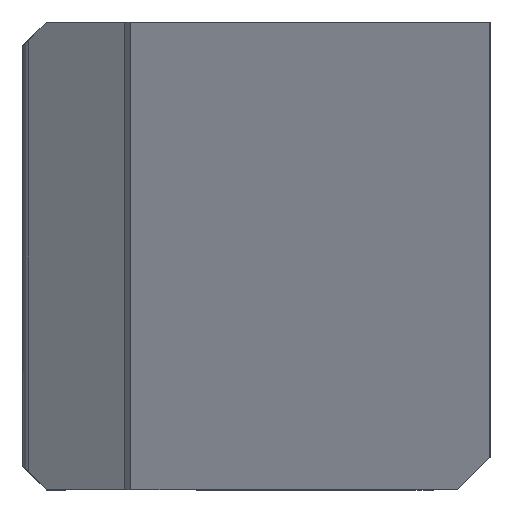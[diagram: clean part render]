
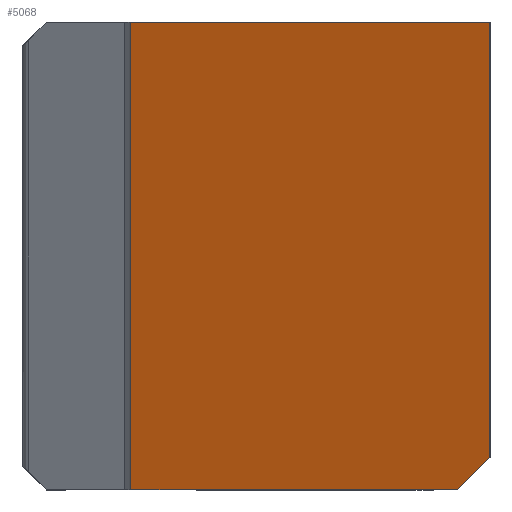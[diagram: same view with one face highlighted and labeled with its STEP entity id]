
A CAD part, left-side view. The second image highlights one B-rep face of the part: STEP entity #5068.
In plain terms, the highlighted planar face has unit normal (-0.943, 0, -0.334).
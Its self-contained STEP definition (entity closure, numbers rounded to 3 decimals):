
#245 = AXIS2_PLACEMENT_3D ( 'NONE', #12643, #7052, #5859 ) ;
#331 = ORIENTED_EDGE ( 'NONE', *, *, #9719, .F. ) ;
#600 = CARTESIAN_POINT ( 'NONE',  ( 0., 29., 0. ) ) ;
#640 = DIRECTION ( 'NONE',  ( 0., 1., 0. ) ) ;
#1738 = DIRECTION ( 'NONE',  ( -0.243, -0.686, 0.686 ) ) ;
#2388 = ORIENTED_EDGE ( 'NONE', *, *, #18189, .F. ) ;
#2744 = CARTESIAN_POINT ( 'NONE',  ( 10.286, 2., -29. ) ) ;
#3386 = VERTEX_POINT ( 'NONE', #9577 ) ;
#3550 = VECTOR ( 'NONE', #18321, 1000. ) ;
#3906 = EDGE_CURVE ( 'NONE', #11472, #14202, #12213, .T. ) ;
#4522 = VECTOR ( 'NONE', #7168, 1000. ) ;
#5068 = ADVANCED_FACE ( 'NONE', ( #14213 ), #17095, .T. ) ;
#5859 = DIRECTION ( 'NONE',  ( -0.334, 0., 0.942 ) ) ;
#6214 = EDGE_LOOP ( 'NONE', ( #2388, #10431, #331, #12121, #9591 ) ) ;
#7052 = DIRECTION ( 'NONE',  ( -0.942, 0., -0.334 ) ) ;
#7168 = DIRECTION ( 'NONE',  ( 0.334, 0., -0.942 ) ) ;
#7663 = LINE ( 'NONE', #16132, #17056 ) ;
#8056 = LINE ( 'NONE', #13359, #17980 ) ;
#8959 = EDGE_CURVE ( 'NONE', #3386, #11472, #9760, .T. ) ;
#9577 = CARTESIAN_POINT ( 'NONE',  ( 10.286, 22.25, -29. ) ) ;
#9591 = ORIENTED_EDGE ( 'NONE', *, *, #8959, .F. ) ;
#9719 = EDGE_CURVE ( 'NONE', #14202, #12383, #12675, .T. ) ;
#9760 = LINE ( 'NONE', #12650, #3550 ) ;
#10431 = ORIENTED_EDGE ( 'NONE', *, *, #15883, .T. ) ;
#11301 = CARTESIAN_POINT ( 'NONE',  ( 9.576, 0., -27. ) ) ;
#11341 = VECTOR ( 'NONE', #16301, 1000. ) ;
#11472 = VERTEX_POINT ( 'NONE', #12504 ) ;
#12121 = ORIENTED_EDGE ( 'NONE', *, *, #3906, .F. ) ;
#12213 = LINE ( 'NONE', #600, #11341 ) ;
#12383 = VERTEX_POINT ( 'NONE', #11301 ) ;
#12504 = CARTESIAN_POINT ( 'NONE',  ( 0., 22.25, 0. ) ) ;
#12643 = CARTESIAN_POINT ( 'NONE',  ( 0., 0., 0. ) ) ;
#12650 = CARTESIAN_POINT ( 'NONE',  ( 0., 22.25, 0. ) ) ;
#12675 = LINE ( 'NONE', #14159, #4522 ) ;
#13359 = CARTESIAN_POINT ( 'NONE',  ( 10.286, 29., -29. ) ) ;
#14159 = CARTESIAN_POINT ( 'NONE',  ( 10.286, 0., -29. ) ) ;
#14202 = VERTEX_POINT ( 'NONE', #18332 ) ;
#14213 = FACE_OUTER_BOUND ( 'NONE', #6214, .T. ) ;
#15883 = EDGE_CURVE ( 'NONE', #16048, #12383, #7663, .T. ) ;
#16048 = VERTEX_POINT ( 'NONE', #2744 ) ;
#16132 = CARTESIAN_POINT ( 'NONE',  ( 4.505, -14.299, -12.701 ) ) ;
#16301 = DIRECTION ( 'NONE',  ( 0., -1., 0. ) ) ;
#17056 = VECTOR ( 'NONE', #1738, 1000. ) ;
#17095 = PLANE ( 'NONE',  #245 ) ;
#17980 = VECTOR ( 'NONE', #640, 1000. ) ;
#18189 = EDGE_CURVE ( 'NONE', #16048, #3386, #8056, .T. ) ;
#18321 = DIRECTION ( 'NONE',  ( -0.334, 0., 0.942 ) ) ;
#18332 = CARTESIAN_POINT ( 'NONE',  ( 0., 0., 0. ) ) ;
